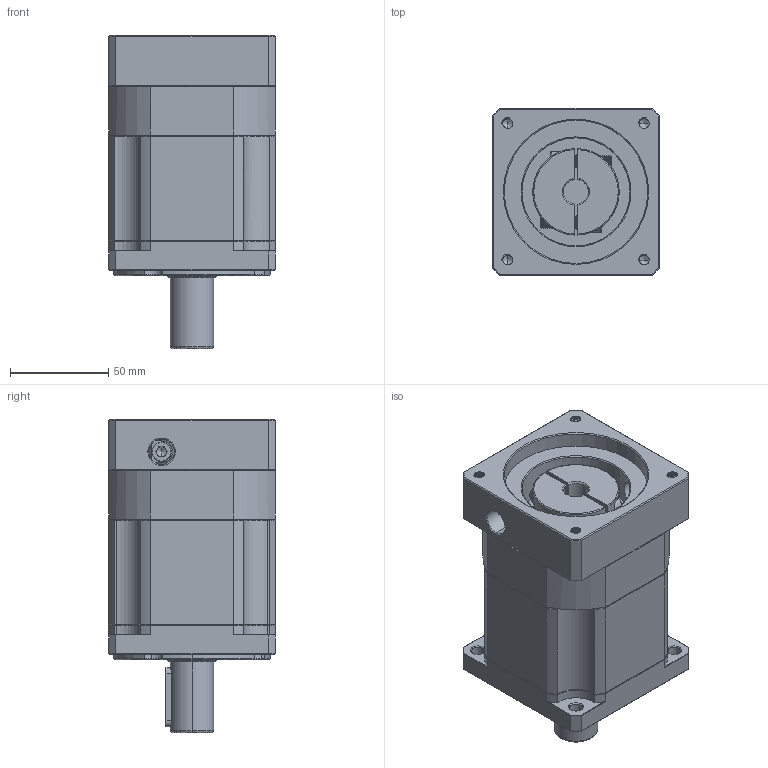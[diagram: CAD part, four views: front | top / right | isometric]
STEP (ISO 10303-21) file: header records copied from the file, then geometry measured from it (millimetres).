
FILE_DESCRIPTION (( 'STEP AP214' ), '1' );
FILE_NAME ('ZB90-D22-L2-12.7-73-69.5X69.5-M6.STEP', '2022-05-02T15:32:07', ( '' ), ( 'Microsoft' ), 'SwSTEP 2.0', 'SolidWorks 2016', '' );
FILE_SCHEMA (( 'AUTOMOTIVE_DESIGN' ));
Length unit declared in the file: millimetre
Products named in the file (1): ZB90-D22-L2-12.7-73-69.5X69.5-M6
Bounding box: 85 x 85 x 159.5 mm (x, y, z)
Volume: 731342.5 mm3; surface area: 92604.6 mm2
Topology: 4 solids, 5 shells, 1939 faces, 5064 edges, 3205 vertices
Faces by surface type: plane 882, cylinder 396, cone 335, bspline 299, torus 27
Entity records: 104653 total; most frequent: CARTESIAN_POINT 38398, ORIENTED_EDGE 10084, DIRECTION 8192, EDGE_CURVE 5042, VERTEX_POINT 3205, LINE 3102, VECTOR 3102, AXIS2_PLACEMENT_3D 2545
